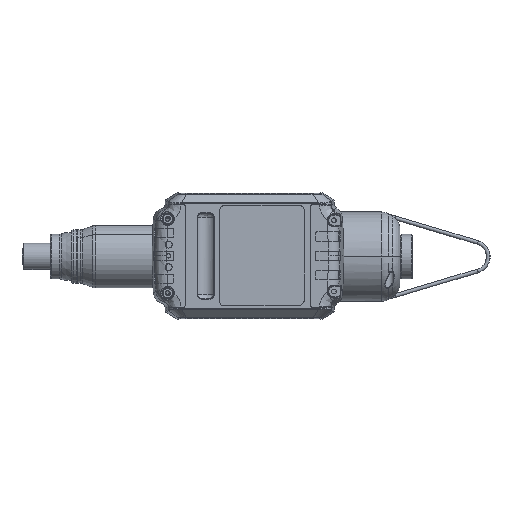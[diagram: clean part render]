
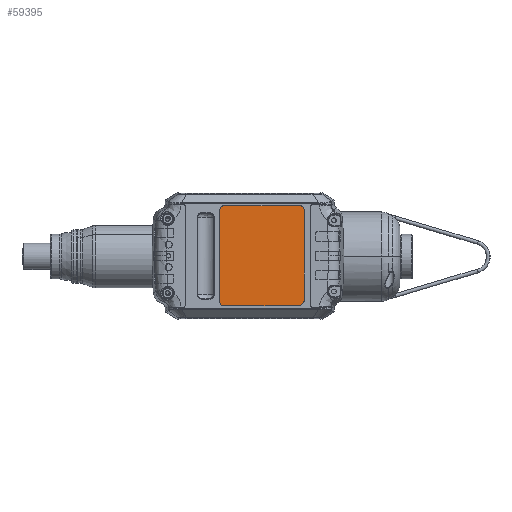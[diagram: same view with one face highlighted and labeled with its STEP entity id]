
A CAD part, top view. The second image highlights one B-rep face of the part: STEP entity #59395.
In plain terms, the highlighted planar face has unit normal (0, 0, 1).
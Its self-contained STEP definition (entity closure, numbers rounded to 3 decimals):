
#2201 = CARTESIAN_POINT ( 'NONE',  ( -58.01, 33.6, 260.1 ) ) ;
#4100 = AXIS2_PLACEMENT_3D ( 'NONE', #64024, #55192, #121886 ) ;
#4103 = DIRECTION ( 'NONE',  ( -1., 0., 0. ) ) ;
#8888 = DIRECTION ( 'NONE',  ( 0., -1., 0. ) ) ;
#10029 = ORIENTED_EDGE ( 'NONE', *, *, #32474, .T. ) ;
#12194 = EDGE_CURVE ( 'NONE', #35017, #76563, #124042, .T. ) ;
#13269 = EDGE_CURVE ( 'NONE', #53402, #96261, #102488, .T. ) ;
#13896 = CIRCLE ( 'NONE', #120489, 2.5 ) ;
#15911 = VERTEX_POINT ( 'NONE', #67165 ) ;
#16880 = CARTESIAN_POINT ( 'NONE',  ( -6.417, -33.307, 260.1 ) ) ;
#18156 = CARTESIAN_POINT ( 'NONE',  ( -60.51, -31.1, 260.1 ) ) ;
#18373 = CARTESIAN_POINT ( 'NONE',  ( -4.203, -31.093, 260.1 ) ) ;
#21300 = DIRECTION ( 'NONE',  ( 0., 1., 0. ) ) ;
#21533 = EDGE_CURVE ( 'NONE', #92092, #15911, #13896, .T. ) ;
#23627 = CARTESIAN_POINT ( 'NONE',  ( -58.01, -33.6, 260.1 ) ) ;
#23754 = AXIS2_PLACEMENT_3D ( 'NONE', #39392, #94704, #66424 ) ;
#26005 = VECTOR ( 'NONE', #55307, 1000. ) ;
#26794 = ORIENTED_EDGE ( 'NONE', *, *, #12194, .T. ) ;
#28699 = FACE_OUTER_BOUND ( 'NONE', #69876, .T. ) ;
#29346 = DIRECTION ( 'NONE',  ( 0., 0., 1. ) ) ;
#30874 = CARTESIAN_POINT ( 'NONE',  ( -3.91, -30.386, 260.1 ) ) ;
#31162 = ORIENTED_EDGE ( 'NONE', *, *, #48651, .T. ) ;
#32474 = EDGE_CURVE ( 'NONE', #76563, #38428, #58400, .T. ) ;
#32950 = VECTOR ( 'NONE', #21300, 1000. ) ;
#35017 = VERTEX_POINT ( 'NONE', #55926 ) ;
#37525 = ORIENTED_EDGE ( 'NONE', *, *, #75061, .T. ) ;
#38291 = ORIENTED_EDGE ( 'NONE', *, *, #94101, .T. ) ;
#38428 = VERTEX_POINT ( 'NONE', #86484 ) ;
#39392 = CARTESIAN_POINT ( 'NONE',  ( -42.91, 0., 260.1 ) ) ;
#44444 = DIRECTION ( 'NONE',  ( 1., 0., 0. ) ) ;
#45390 = VERTEX_POINT ( 'NONE', #77956 ) ;
#48651 = EDGE_CURVE ( 'NONE', #116983, #35017, #104184, .T. ) ;
#49212 = CARTESIAN_POINT ( 'NONE',  ( -60.51, 31.1, 260.1 ) ) ;
#49286 = CARTESIAN_POINT ( 'NONE',  ( -7.124, -33.6, 260.1 ) ) ;
#53402 = VERTEX_POINT ( 'NONE', #117058 ) ;
#54281 = EDGE_CURVE ( 'NONE', #38428, #92092, #56825, .T. ) ;
#55192 = DIRECTION ( 'NONE',  ( 0., 0., 1. ) ) ;
#55307 = DIRECTION ( 'NONE',  ( 0.707, 0.707, 0. ) ) ;
#55926 = CARTESIAN_POINT ( 'NONE',  ( -6.41, 33.6, 260.1 ) ) ;
#56057 = CARTESIAN_POINT ( 'NONE',  ( -6.41, 33.6, 260.1 ) ) ;
#56825 = LINE ( 'NONE', #49212, #64899 ) ;
#57130 = ORIENTED_EDGE ( 'NONE', *, *, #13269, .T. ) ;
#58400 = CIRCLE ( 'NONE', #4100, 2.5 ) ;
#58889 = CARTESIAN_POINT ( 'NONE',  ( -6.41, 31.1, 260.1 ) ) ;
#59395 = ADVANCED_FACE ( 'NONE', ( #28699 ), #65797, .T. ) ;
#61218 = CARTESIAN_POINT ( 'NONE',  ( -3.91, 31.1, 260.1 ) ) ;
#62391 = DIRECTION ( 'NONE',  ( 0., 0., 1. ) ) ;
#63324 = CIRCLE ( 'NONE', #67391, 1. ) ;
#64024 = CARTESIAN_POINT ( 'NONE',  ( -58.01, 31.1, 260.1 ) ) ;
#64288 = DIRECTION ( 'NONE',  ( -1., 0., 0. ) ) ;
#64899 = VECTOR ( 'NONE', #8888, 1000. ) ;
#65797 = PLANE ( 'NONE',  #23754 ) ;
#66424 = DIRECTION ( 'NONE',  ( 1., 0., 0. ) ) ;
#67165 = CARTESIAN_POINT ( 'NONE',  ( -58.01, -33.6, 260.1 ) ) ;
#67278 = DIRECTION ( 'NONE',  ( 0., 0., 1. ) ) ;
#67391 = AXIS2_PLACEMENT_3D ( 'NONE', #121538, #62391, #93811 ) ;
#67716 = DIRECTION ( 'NONE',  ( 1., 0., 0. ) ) ;
#69876 = EDGE_LOOP ( 'NONE', ( #57130, #99763, #73332, #31162, #26794, #10029, #91781, #101911, #37525, #38291 ) ) ;
#73332 = ORIENTED_EDGE ( 'NONE', *, *, #92759, .T. ) ;
#75061 = EDGE_CURVE ( 'NONE', #15911, #86244, #110414, .T. ) ;
#76563 = VERTEX_POINT ( 'NONE', #2201 ) ;
#76801 = DIRECTION ( 'NONE',  ( 0.707, -0.707, 0. ) ) ;
#77956 = CARTESIAN_POINT ( 'NONE',  ( -3.91, -30.386, 260.1 ) ) ;
#79743 = DIRECTION ( 'NONE',  ( 0., 0., 1. ) ) ;
#86244 = VERTEX_POINT ( 'NONE', #49286 ) ;
#86484 = CARTESIAN_POINT ( 'NONE',  ( -60.51, 31.1, 260.1 ) ) ;
#90709 = CIRCLE ( 'NONE', #102710, 1. ) ;
#91781 = ORIENTED_EDGE ( 'NONE', *, *, #54281, .T. ) ;
#92092 = VERTEX_POINT ( 'NONE', #18156 ) ;
#92759 = EDGE_CURVE ( 'NONE', #45390, #116983, #116972, .T. ) ;
#93811 = DIRECTION ( 'NONE',  ( 0., -1., 0. ) ) ;
#94101 = EDGE_CURVE ( 'NONE', #86244, #53402, #63324, .T. ) ;
#94704 = DIRECTION ( 'NONE',  ( 0., 0., 1. ) ) ;
#96261 = VERTEX_POINT ( 'NONE', #18373 ) ;
#97412 = CARTESIAN_POINT ( 'NONE',  ( -4.91, -30.386, 260.1 ) ) ;
#99763 = ORIENTED_EDGE ( 'NONE', *, *, #122739, .T. ) ;
#100306 = VECTOR ( 'NONE', #64288, 1000. ) ;
#101911 = ORIENTED_EDGE ( 'NONE', *, *, #21533, .T. ) ;
#102488 = LINE ( 'NONE', #16880, #26005 ) ;
#102710 = AXIS2_PLACEMENT_3D ( 'NONE', #97412, #67278, #76801 ) ;
#104184 = CIRCLE ( 'NONE', #108227, 2.5 ) ;
#108227 = AXIS2_PLACEMENT_3D ( 'NONE', #58889, #29346, #67716 ) ;
#110414 = LINE ( 'NONE', #23627, #115254 ) ;
#111041 = CARTESIAN_POINT ( 'NONE',  ( -58.01, -31.1, 260.1 ) ) ;
#115254 = VECTOR ( 'NONE', #44444, 1000. ) ;
#116972 = LINE ( 'NONE', #30874, #32950 ) ;
#116983 = VERTEX_POINT ( 'NONE', #61218 ) ;
#117058 = CARTESIAN_POINT ( 'NONE',  ( -6.417, -33.307, 260.1 ) ) ;
#120489 = AXIS2_PLACEMENT_3D ( 'NONE', #111041, #79743, #4103 ) ;
#121538 = CARTESIAN_POINT ( 'NONE',  ( -7.124, -32.6, 260.1 ) ) ;
#121886 = DIRECTION ( 'NONE',  ( 0., 1., 0. ) ) ;
#122739 = EDGE_CURVE ( 'NONE', #96261, #45390, #90709, .T. ) ;
#124042 = LINE ( 'NONE', #56057, #100306 ) ;
